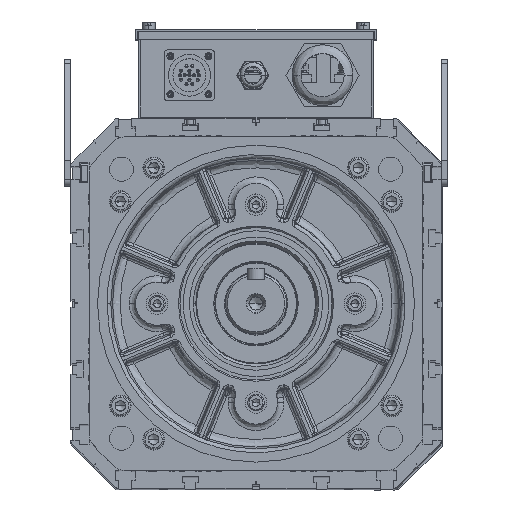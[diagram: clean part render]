
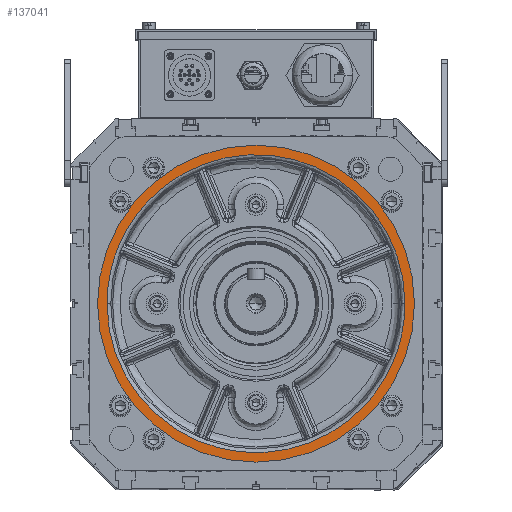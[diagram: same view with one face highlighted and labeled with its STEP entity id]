
A CAD part, top view. The second image highlights one B-rep face of the part: STEP entity #137041.
In plain terms, the highlighted planar face has unit normal (0, 0, 1) as drawn and (0, 0, -1) by its records, which use the part's own axes.
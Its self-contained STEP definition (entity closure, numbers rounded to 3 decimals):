
#230 = ORIENTED_EDGE ( 'NONE', *, *, #83951, .F. ) ;
#1074 = DIRECTION ( 'NONE',  ( 0., 0., 1. ) ) ;
#3085 = VERTEX_POINT ( 'NONE', #121694 ) ;
#3333 = CARTESIAN_POINT ( 'NONE',  ( 175.72, -229.179, 132.5 ) ) ;
#6562 = DIRECTION ( 'NONE',  ( 0., 0., 1. ) ) ;
#11547 = DIRECTION ( 'NONE',  ( 1., 0., 0. ) ) ;
#14726 = CARTESIAN_POINT ( 'NONE',  ( 175.72, 5.856, 132.5 ) ) ;
#15635 = AXIS2_PLACEMENT_3D ( 'NONE', #121774, #1074, #133594 ) ;
#17450 = DIRECTION ( 'NONE',  ( -1., 0., 0. ) ) ;
#20930 = AXIS2_PLACEMENT_3D ( 'NONE', #146906, #6562, #17450 ) ;
#23894 = FACE_BOUND ( 'NONE', #98312, .T. ) ;
#26613 = CARTESIAN_POINT ( 'NONE',  ( -59.315, -229.179, 132.5 ) ) ;
#48302 = VERTEX_POINT ( 'NONE', #136006 ) ;
#52878 = CARTESIAN_POINT ( 'NONE',  ( -59.315, 5.856, 132.5 ) ) ;
#67340 = CARTESIAN_POINT ( 'NONE',  ( 175.72, 5.856, 132.5 ) ) ;
#74292 = CARTESIAN_POINT ( 'NONE',  ( -59.315, 5.856, 132.5 ) ) ;
#77113 = EDGE_CURVE ( 'NONE', #118412, #3085, #123313, .T. ) ;
#77311 = CARTESIAN_POINT ( 'NONE',  ( -59.315, 240.89, 132.5 ) ) ;
#83951 = EDGE_CURVE ( 'NONE', #108295, #48302, #110351, .T. ) ;
#84570 = DIRECTION ( 'NONE',  ( 0., 0., 1. ) ) ;
#86754 = AXIS2_PLACEMENT_3D ( 'NONE', #106308, #84570, #11547 ) ;
#92184 = CARTESIAN_POINT ( 'NONE',  ( -59.315, 5.856, 132.5 ) ) ;
#96040 = PLANE ( 'NONE',  #86754 ) ;
#98312 = EDGE_LOOP ( 'NONE', ( #108099, #120297 ) ) ;
#105020 = EDGE_CURVE ( 'NONE', #3085, #118412, #126071, .T. ) ;
#106308 = CARTESIAN_POINT ( 'NONE',  ( 58.202, 130.856, 132.5 ) ) ;
#108099 = ORIENTED_EDGE ( 'NONE', *, *, #105020, .F. ) ;
#108295 = VERTEX_POINT ( 'NONE', #142652 ) ;
#109979 = EDGE_CURVE ( 'NONE', #48302, #108295, #122551, .T. ) ;
#110351 = CIRCLE ( 'NONE', #20930, 125. ) ;
#113261 = EDGE_LOOP ( 'NONE', ( #230, #151913 ) ) ;
#113513 = CARTESIAN_POINT ( 'NONE',  ( 175.72, 240.89, 132.5 ) ) ;
#118412 = VERTEX_POINT ( 'NONE', #92184 ) ;
#120297 = ORIENTED_EDGE ( 'NONE', *, *, #77113, .F. ) ;
#121694 = CARTESIAN_POINT ( 'NONE',  ( 175.72, 5.856, 132.5 ) ) ;
#121774 = CARTESIAN_POINT ( 'NONE',  ( 58.202, 5.856, 132.5 ) ) ;
#122551 = CIRCLE ( 'NONE', #15635, 125. ) ;
#123313 =( BOUNDED_CURVE ( )  B_SPLINE_CURVE ( 3, ( #52878, #77311, #113513, #67340 ),
 .UNSPECIFIED., .F., .F. ) 
 B_SPLINE_CURVE_WITH_KNOTS ( ( 4, 4 ),
 ( 0., 1. ),
 .UNSPECIFIED. ) 
 CURVE ( )  GEOMETRIC_REPRESENTATION_ITEM ( )  RATIONAL_B_SPLINE_CURVE ( ( 1., 0.333, 0.333, 1. ) ) 
 REPRESENTATION_ITEM ( '' )  );
#126071 =( BOUNDED_CURVE ( )  B_SPLINE_CURVE ( 3, ( #14726, #3333, #26613, #74292 ),
 .UNSPECIFIED., .F., .F. ) 
 B_SPLINE_CURVE_WITH_KNOTS ( ( 4, 4 ),
 ( 0., 1. ),
 .UNSPECIFIED. ) 
 CURVE ( )  GEOMETRIC_REPRESENTATION_ITEM ( )  RATIONAL_B_SPLINE_CURVE ( ( 1., 0.333, 0.333, 1. ) ) 
 REPRESENTATION_ITEM ( '' )  );
#133594 = DIRECTION ( 'NONE',  ( -1., 0., 0. ) ) ;
#136006 = CARTESIAN_POINT ( 'NONE',  ( 183.202, 5.856, 132.5 ) ) ;
#136916 = FACE_OUTER_BOUND ( 'NONE', #113261, .T. ) ;
#137041 = ADVANCED_FACE ( 'NONE', ( #136916, #23894 ), #96040, .F. ) ;
#142652 = CARTESIAN_POINT ( 'NONE',  ( -66.798, 5.856, 132.5 ) ) ;
#146906 = CARTESIAN_POINT ( 'NONE',  ( 58.202, 5.856, 132.5 ) ) ;
#151913 = ORIENTED_EDGE ( 'NONE', *, *, #109979, .F. ) ;
